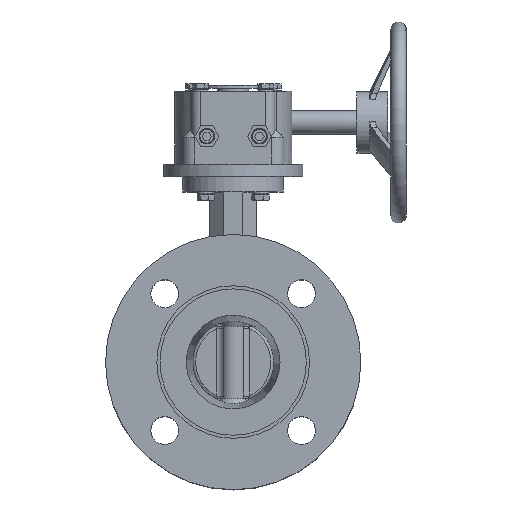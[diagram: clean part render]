
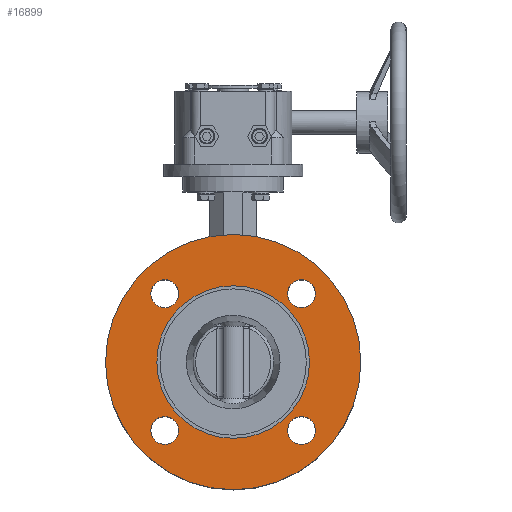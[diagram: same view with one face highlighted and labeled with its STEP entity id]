
A CAD part, top view. The second image highlights one B-rep face of the part: STEP entity #16899.
In plain terms, the highlighted planar face has unit normal (0, 0, 1).
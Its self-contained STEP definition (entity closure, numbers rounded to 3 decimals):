
#860 = EDGE_LOOP ( 'NONE', ( #6345 ) ) ;
#956 = CIRCLE ( 'NONE', #16647, 9. ) ;
#1060 = AXIS2_PLACEMENT_3D ( 'NONE', #34273, #5534, #11401 ) ;
#1198 = CARTESIAN_POINT ( 'NONE',  ( -49.3, 0., 52. ) ) ;
#1552 = VERTEX_POINT ( 'NONE', #19317 ) ;
#3460 = ORIENTED_EDGE ( 'NONE', *, *, #14800, .T. ) ;
#3773 = DIRECTION ( 'NONE',  ( 1., 0., 0. ) ) ;
#4254 = AXIS2_PLACEMENT_3D ( 'NONE', #10421, #21942, #19094 ) ;
#4598 = DIRECTION ( 'NONE',  ( 0., 0., -1. ) ) ;
#5534 = DIRECTION ( 'NONE',  ( 0., 0., -1. ) ) ;
#6075 = ORIENTED_EDGE ( 'NONE', *, *, #30932, .T. ) ;
#6238 = EDGE_CURVE ( 'NONE', #9522, #9522, #7027, .T. ) ;
#6345 = ORIENTED_EDGE ( 'NONE', *, *, #31515, .T. ) ;
#7027 = CIRCLE ( 'NONE', #19680, 9. ) ;
#7077 = DIRECTION ( 'NONE',  ( 1., 0., 0. ) ) ;
#7269 = FACE_BOUND ( 'NONE', #22605, .T. ) ;
#7441 = CARTESIAN_POINT ( 'NONE',  ( 35.194, -44.194, 52. ) ) ;
#7937 = DIRECTION ( 'NONE',  ( -1., 0., 0. ) ) ;
#8639 = EDGE_LOOP ( 'NONE', ( #6075 ) ) ;
#9522 = VERTEX_POINT ( 'NONE', #15570 ) ;
#9710 = CARTESIAN_POINT ( 'NONE',  ( 49.3, 0., 52. ) ) ;
#9904 = CARTESIAN_POINT ( 'NONE',  ( 0., 0., 52. ) ) ;
#10421 = CARTESIAN_POINT ( 'NONE',  ( 44.194, 44.194, 52. ) ) ;
#10457 = CARTESIAN_POINT ( 'NONE',  ( -44.194, 44.194, 52. ) ) ;
#10868 = AXIS2_PLACEMENT_3D ( 'NONE', #9904, #32776, #7077 ) ;
#11401 = DIRECTION ( 'NONE',  ( -1., 0., 0. ) ) ;
#13130 = CARTESIAN_POINT ( 'NONE',  ( -53.194, 44.194, 52. ) ) ;
#13338 = FACE_BOUND ( 'NONE', #860, .T. ) ;
#14416 = EDGE_CURVE ( 'NONE', #35413, #35413, #26467, .T. ) ;
#14643 = EDGE_LOOP ( 'NONE', ( #33245 ) ) ;
#14800 = EDGE_CURVE ( 'NONE', #30178, #30178, #27101, .T. ) ;
#15570 = CARTESIAN_POINT ( 'NONE',  ( -53.194, -44.194, 52. ) ) ;
#15890 = EDGE_LOOP ( 'NONE', ( #21914 ) ) ;
#16647 = AXIS2_PLACEMENT_3D ( 'NONE', #10457, #4598, #33518 ) ;
#16899 = ADVANCED_FACE ( 'NONE', ( #24421, #21430, #13338, #7269, #19140, #30541 ), #21246, .F. ) ;
#19094 = DIRECTION ( 'NONE',  ( -1., 0., 0. ) ) ;
#19140 = FACE_BOUND ( 'NONE', #15890, .T. ) ;
#19269 = AXIS2_PLACEMENT_3D ( 'NONE', #1198, #32603, #30365 ) ;
#19317 = CARTESIAN_POINT ( 'NONE',  ( 82.5, 0., 52. ) ) ;
#19387 = ORIENTED_EDGE ( 'NONE', *, *, #6238, .T. ) ;
#19680 = AXIS2_PLACEMENT_3D ( 'NONE', #22481, #33270, #7937 ) ;
#20985 = CIRCLE ( 'NONE', #1060, 9. ) ;
#21228 = CARTESIAN_POINT ( 'NONE',  ( 35.194, 44.194, 52. ) ) ;
#21246 = PLANE ( 'NONE',  #19269 ) ;
#21430 = FACE_OUTER_BOUND ( 'NONE', #8639, .T. ) ;
#21914 = ORIENTED_EDGE ( 'NONE', *, *, #22550, .T. ) ;
#21942 = DIRECTION ( 'NONE',  ( 0., 0., -1. ) ) ;
#22481 = CARTESIAN_POINT ( 'NONE',  ( -44.194, -44.194, 52. ) ) ;
#22550 = EDGE_CURVE ( 'NONE', #36734, #36734, #20985, .T. ) ;
#22605 = EDGE_LOOP ( 'NONE', ( #19387 ) ) ;
#23193 = EDGE_LOOP ( 'NONE', ( #3460 ) ) ;
#24331 = CARTESIAN_POINT ( 'NONE',  ( 0., 0., 52. ) ) ;
#24421 = FACE_BOUND ( 'NONE', #14643, .T. ) ;
#25322 = VERTEX_POINT ( 'NONE', #13130 ) ;
#25596 = CIRCLE ( 'NONE', #33936, 82.5 ) ;
#26467 = CIRCLE ( 'NONE', #10868, 49.3 ) ;
#27101 = CIRCLE ( 'NONE', #4254, 9. ) ;
#29558 = DIRECTION ( 'NONE',  ( 0., 0., 1. ) ) ;
#30178 = VERTEX_POINT ( 'NONE', #21228 ) ;
#30365 = DIRECTION ( 'NONE',  ( 1., 0., 0. ) ) ;
#30541 = FACE_BOUND ( 'NONE', #23193, .T. ) ;
#30932 = EDGE_CURVE ( 'NONE', #1552, #1552, #25596, .T. ) ;
#31515 = EDGE_CURVE ( 'NONE', #25322, #25322, #956, .T. ) ;
#32603 = DIRECTION ( 'NONE',  ( 0., 0., -1. ) ) ;
#32776 = DIRECTION ( 'NONE',  ( 0., 0., 1. ) ) ;
#33245 = ORIENTED_EDGE ( 'NONE', *, *, #14416, .F. ) ;
#33270 = DIRECTION ( 'NONE',  ( 0., 0., -1. ) ) ;
#33518 = DIRECTION ( 'NONE',  ( -1., 0., 0. ) ) ;
#33936 = AXIS2_PLACEMENT_3D ( 'NONE', #24331, #29558, #3773 ) ;
#34273 = CARTESIAN_POINT ( 'NONE',  ( 44.194, -44.194, 52. ) ) ;
#35413 = VERTEX_POINT ( 'NONE', #9710 ) ;
#36734 = VERTEX_POINT ( 'NONE', #7441 ) ;
